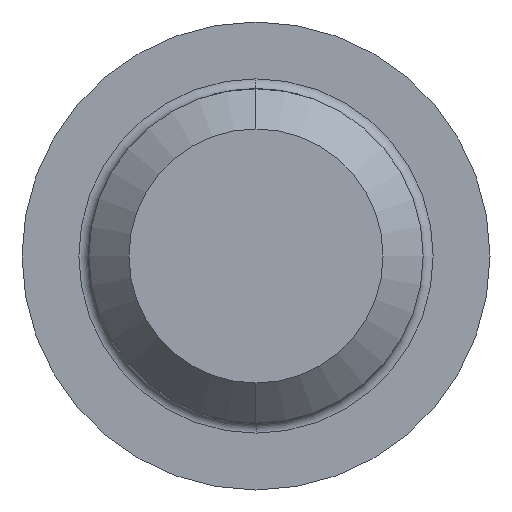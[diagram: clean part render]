
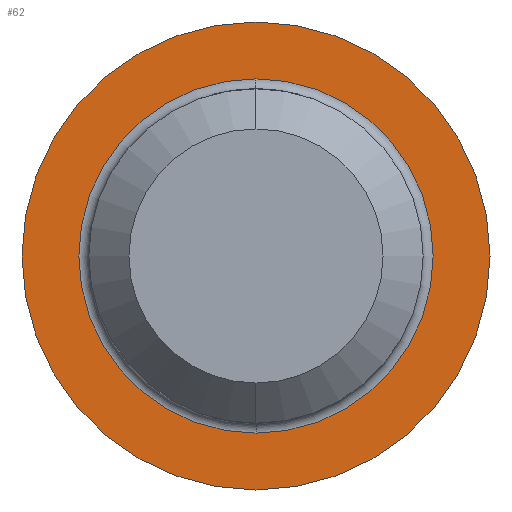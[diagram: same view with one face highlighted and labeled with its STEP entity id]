
A CAD part, left-side view. The second image highlights one B-rep face of the part: STEP entity #62.
In plain terms, the highlighted planar face has unit normal (-1, 0, 0).
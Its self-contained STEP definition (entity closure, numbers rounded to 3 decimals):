
#31 = ORIENTED_EDGE ( 'NONE', *, *, #64, .T. ) ;
#47 = ORIENTED_EDGE ( 'NONE', *, *, #49, .T. ) ;
#48 = EDGE_CURVE ( 'NONE', #152, #157, #401, .T. ) ;
#49 = EDGE_CURVE ( 'NONE', #53, #55, #379, .T. ) ;
#53 = VERTEX_POINT ( 'NONE', #388 ) ;
#55 = VERTEX_POINT ( 'NONE', #392 ) ;
#58 = CARTESIAN_POINT ( 'NONE',  ( 0., 0., -5.3 ) ) ;
#62 = ADVANCED_FACE ( 'NONE', ( #274, #384 ), #383, .F. ) ;
#63 = ORIENTED_EDGE ( 'NONE', *, *, #105, .T. ) ;
#64 = EDGE_CURVE ( 'NONE', #55, #53, #382, .T. ) ;
#65 = ORIENTED_EDGE ( 'NONE', *, *, #48, .T. ) ;
#66 = EDGE_LOOP ( 'NONE', ( #65, #63 ) ) ;
#68 = EDGE_LOOP ( 'NONE', ( #47, #31 ) ) ;
#105 = EDGE_CURVE ( 'NONE', #157, #152, #439, .T. ) ;
#152 = VERTEX_POINT ( 'NONE', #58 ) ;
#157 = VERTEX_POINT ( 'NONE', #480 ) ;
#259 = DIRECTION ( 'NONE',  ( 0., 0., 1. ) ) ;
#260 = DIRECTION ( 'NONE',  ( -1., 0., 0. ) ) ;
#261 = CARTESIAN_POINT ( 'NONE',  ( 0., 0., 0. ) ) ;
#266 = DIRECTION ( 'NONE',  ( 0., 0., -1. ) ) ;
#267 = DIRECTION ( 'NONE',  ( 1., 0., 0. ) ) ;
#271 = AXIS2_PLACEMENT_3D ( 'NONE', #377, #267, #266 ) ;
#274 = FACE_BOUND ( 'NONE', #66, .T. ) ;
#286 = AXIS2_PLACEMENT_3D ( 'NONE', #425, #424, #423 ) ;
#377 = CARTESIAN_POINT ( 'NONE',  ( 0., 7., 0. ) ) ;
#379 = CIRCLE ( 'NONE', #394, 7. ) ;
#382 = CIRCLE ( 'NONE', #391, 7. ) ;
#383 = PLANE ( 'NONE',  #271 ) ;
#384 = FACE_OUTER_BOUND ( 'NONE', #68, .T. ) ;
#388 = CARTESIAN_POINT ( 'NONE',  ( 0., 0., 7. ) ) ;
#389 = DIRECTION ( 'NONE',  ( 0., 0., 1. ) ) ;
#390 = DIRECTION ( 'NONE',  ( -1., 0., 0. ) ) ;
#391 = AXIS2_PLACEMENT_3D ( 'NONE', #261, #260, #259 ) ;
#392 = CARTESIAN_POINT ( 'NONE',  ( 0., 0., -7. ) ) ;
#394 = AXIS2_PLACEMENT_3D ( 'NONE', #400, #390, #389 ) ;
#395 = DIRECTION ( 'NONE',  ( 0., 0., -1. ) ) ;
#396 = DIRECTION ( 'NONE',  ( 1., 0., 0. ) ) ;
#398 = CARTESIAN_POINT ( 'NONE',  ( 0., 0., 0. ) ) ;
#399 = AXIS2_PLACEMENT_3D ( 'NONE', #398, #396, #395 ) ;
#400 = CARTESIAN_POINT ( 'NONE',  ( 0., 0., 0. ) ) ;
#401 = CIRCLE ( 'NONE', #399, 5.3 ) ;
#423 = DIRECTION ( 'NONE',  ( 0., 0., -1. ) ) ;
#424 = DIRECTION ( 'NONE',  ( 1., 0., 0. ) ) ;
#425 = CARTESIAN_POINT ( 'NONE',  ( 0., 0., 0. ) ) ;
#439 = CIRCLE ( 'NONE', #286, 5.3 ) ;
#480 = CARTESIAN_POINT ( 'NONE',  ( 0., 0., 5.3 ) ) ;
